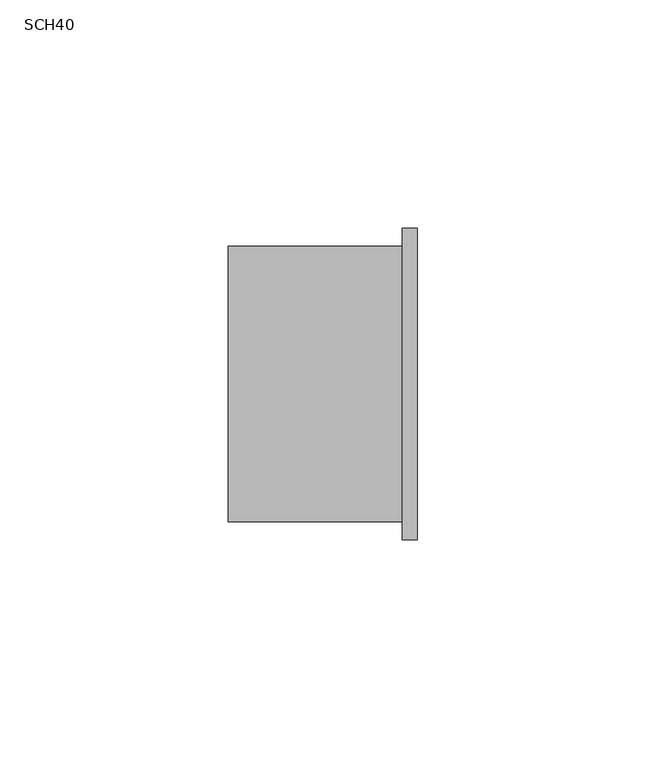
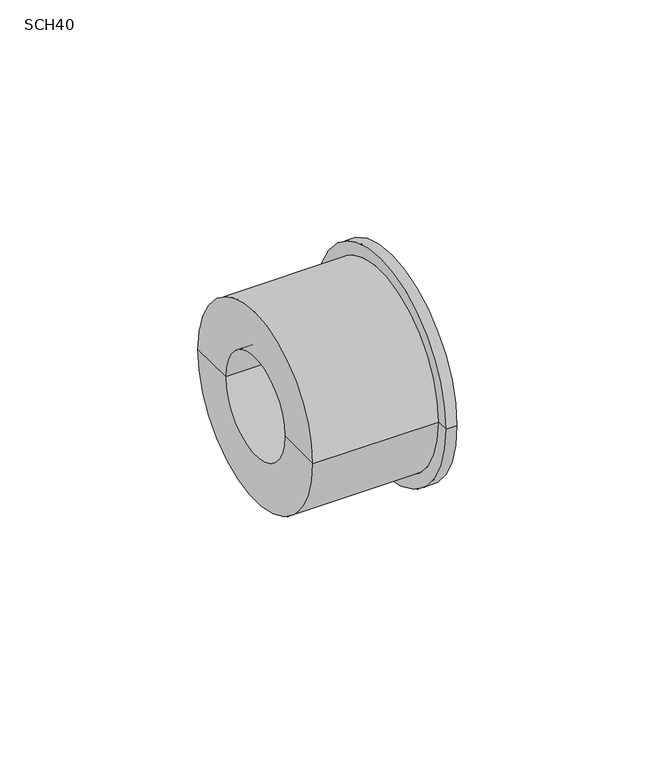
"""IFC4 building model written with IfcOpenShell, lengths in millimetres: pipe fitting geometry, PavcoWavin_UnionesDeTuberia_PVCPresionZNoUsarBuje : SCH40."""

import ifcopenshell
import ifcopenshell.guid

model = None  # the IFC model being written
_history = None  # IfcOwnerHistory: only IFC2X3 demands one
_inside = {}  # id of a spatial element -> (the spatial element, [elements in it])
_under = {}  # id of a project, library or spatial element -> (it, [spatial elements below it])
_declared = {}  # id of a project -> (the project, [libraries it declares])
_typed = {}  # id of a type object -> (the type object, [elements of that type])
_made_of = {}  # id of a material, layer set ... -> (it, [elements and type objects made of it])


def new_model(schema):
    """Start an empty IFC model of exactly this schema.

    Asked for "IFC4X3", IfcOpenShell would pick the latest addendum, in which some entities
    have other attributes; the version numbers below select the first issue.
    IFC2X3 requires an IfcOwnerHistory on every rooted entity: one is made here for all.
    """
    global model, _history
    if schema == "IFC4X3":
        model = ifcopenshell.file(schema_version=(4, 3, 0, 0))
    else:
        model = ifcopenshell.file(schema=schema)
    _inside.clear()
    _under.clear()
    _declared.clear()
    _typed.clear()
    _made_of.clear()
    _history = None
    if model.schema == "IFC2X3":
        org = make("IfcOrganization", Name="unknown")
        user = make(
            "IfcPersonAndOrganization",
            ThePerson=make("IfcPerson", FamilyName="unknown"),
            TheOrganization=org,
        )
        app = make(
            "IfcApplication",
            ApplicationDeveloper=org,
            Version="unknown",
            ApplicationFullName="unknown",
            ApplicationIdentifier="unknown",
        )
        _history = make(
            "IfcOwnerHistory",
            OwningUser=user,
            OwningApplication=app,
            ChangeAction="ADDED",
            CreationDate=0,
        )
    return model


def make(cls, **values):
    """One entity of the class cls with the attributes given. An attribute that is None is left unset."""
    return model.create_entity(
        cls, **{name: value for name, value in values.items() if value is not None}
    )


def rooted(cls, **values):
    """An entity with a GlobalId (a new one), such as an element, a storey or a relation."""
    return make(cls, GlobalId=ifcopenshell.guid.new(), OwnerHistory=_history, **values)


def si_unit(unit_type, name, prefix=None):
    """IfcSIUnit, for example si_unit("LENGTHUNIT", "METRE", prefix="MILLI")."""
    return make("IfcSIUnit", UnitType=unit_type, Prefix=prefix, Name=name)


def assignment(units):
    """IfcUnitAssignment: the units of a project."""
    return None if units is None else make("IfcUnitAssignment", Units=units)


def point(xyz):
    """IfcCartesianPoint."""
    return None if xyz is None else make("IfcCartesianPoint", Coordinates=xyz)


def direction(xyz):
    """IfcDirection."""
    return None if xyz is None else make("IfcDirection", DirectionRatios=xyz)


def frame(location, z_axis=None, x_axis=None):
    """IfcAxis2Placement3D, a coordinate frame: its origin and axes. An axis left out is left unset."""
    return make(
        "IfcAxis2Placement3D",
        Location=point(location),
        Axis=direction(z_axis),
        RefDirection=direction(x_axis),
    )


def origin():
    """The frame at (0, 0, 0) with its axes left unset."""
    return frame((0.0, 0.0, 0.0))


def place(relative_to, where):
    """IfcLocalPlacement: puts the frame where relative to a parent placement (None: the world)."""
    return make(
        "IfcLocalPlacement", PlacementRelTo=relative_to, RelativePlacement=where
    )


def context(
    kind, dimensions, precision=None, world=None, true_north=None, identifier=None
):
    """IfcGeometricRepresentationContext, for example the 3D "Model" context."""
    return make(
        "IfcGeometricRepresentationContext",
        ContextIdentifier=identifier,
        ContextType=kind,
        CoordinateSpaceDimension=dimensions,
        Precision=precision,
        WorldCoordinateSystem=world,
        TrueNorth=true_north,
    )


def project(units=None, contexts=None):
    """IfcProject with its units and contexts."""
    return rooted(
        "IfcProject",
        Name="project",
        RepresentationContexts=contexts,
        UnitsInContext=assignment(units),
    )


def spatial(cls, under=None, at=None, **own):
    """A site, building, storey or space (cls), placed at a placement, below another one or the project."""
    s = rooted(cls, ObjectPlacement=at, **own)
    if under is not None:
        _under.setdefault(under.id(), (under, []))[1].append(s)
    return s


def polyline(points):
    """IfcPolyline through the points."""
    return make("IfcPolyline", Points=[point(p) for p in points])


def circle_curve(where, radius):
    """IfcCircle in the frame where."""
    return make("IfcCircle", Position=where, Radius=radius)


def shape(context_of_items, identifier, shape_type, items):
    """IfcShapeRepresentation: the items that make up one representation, for example the "Body"."""
    return make(
        "IfcShapeRepresentation",
        ContextOfItems=context_of_items,
        RepresentationIdentifier=identifier,
        RepresentationType=shape_type,
        Items=items,
    )


def source(mapping_origin, context_of_items, identifier, shape_type, items):
    """IfcRepresentationMap: a shape defined once, which mapped items show again and again."""
    return make(
        "IfcRepresentationMap",
        MappingOrigin=mapping_origin,
        MappedRepresentation=shape(context_of_items, identifier, shape_type, items),
    )


def transform(
    local_origin,
    x_axis=None,
    y_axis=None,
    z_axis=None,
    scale=None,
    scale2=None,
    scale3=None,
    uniform=True,
):
    """IfcCartesianTransformationOperator3D, or its non-uniform kind. x_axis, y_axis, z_axis: its Axis1, 2, 3."""
    if uniform:
        return make(
            "IfcCartesianTransformationOperator3D",
            Axis1=direction(x_axis),
            Axis2=direction(y_axis),
            LocalOrigin=point(local_origin),
            Scale=scale,
            Axis3=direction(z_axis),
        )
    return make(
        "IfcCartesianTransformationOperator3DnonUniform",
        Axis1=direction(x_axis),
        Axis2=direction(y_axis),
        LocalOrigin=point(local_origin),
        Scale=scale,
        Axis3=direction(z_axis),
        Scale2=scale2,
        Scale3=scale3,
    )


def mapped(mapping_source, mapping_target):
    """IfcMappedItem: shows the shape of a source again, moved by a transform."""
    return make(
        "IfcMappedItem", MappingSource=mapping_source, MappingTarget=mapping_target
    )


def made_of(thing, what):
    """Note that an element or type object is made of a material, layer set ...; save() writes the relation."""
    if what is not None:
        _made_of.setdefault(what.id(), (what, []))[1].append(thing)
    return thing


def element(
    cls,
    number,
    at=None,
    inside=None,
    cuts=None,
    type_object=None,
    material=None,
    context=None,
    identifier="Body",
    shape_type=None,
    held_by="IfcProductDefinitionShape",
    body=None,
    shapes=None,
    **own,
):
    """One element of the class cls, such as IfcWall. Its Tag is "e" and its number.

    at: its placement. inside: the storey or other place that contains it. cuts: it is an
    opening in that element (IfcRelVoidsElement). A single representation is given by context,
    identifier, shape_type and body (its items); several are given by shapes. held_by: the class
    of the entity that holds the representations. save() writes the other relations.
    """
    e = rooted(cls, Tag="e%d" % number, ObjectPlacement=at, **own)
    if body is not None:
        shapes = [shape(context, identifier, shape_type, body)]
    if shapes is not None:
        e.Representation = make(held_by, Representations=shapes)
    if inside is not None:
        _inside.setdefault(inside.id(), (inside, []))[1].append(e)
    if cuts is not None:
        rooted(
            "IfcRelVoidsElement", RelatingBuildingElement=cuts, RelatedOpeningElement=e
        )
    if type_object is not None:
        _typed.setdefault(type_object.id(), (type_object, []))[1].append(e)
    return made_of(e, material)


def aggregate(whole, parts):
    """IfcRelAggregates: a whole, such as a stair, and the parts it consists of."""
    return rooted("IfcRelAggregates", RelatingObject=whole, RelatedObjects=parts)


def save(model, path):
    """Write the relations noted so far, then the file.

    IfcRelAggregates (storeys below a building ...), IfcRelContainedInSpatialStructure (elements
    in a storey), IfcRelDefinesByType, IfcRelAssociatesMaterial and IfcRelDeclares: one each for
    every whole, place, type object, material and project.
    """
    for whole, parts in _under.values():
        aggregate(whole, parts)
    for where, things in _inside.values():
        rooted(
            "IfcRelContainedInSpatialStructure",
            RelatedElements=things,
            RelatingStructure=where,
        )
    for kind, things in _typed.values():
        rooted("IfcRelDefinesByType", RelatedObjects=things, RelatingType=kind)
    for what, things in _made_of.values():
        rooted("IfcRelAssociatesMaterial", RelatedObjects=things, RelatingMaterial=what)
    for by, libraries in _declared.values():
        rooted("IfcRelDeclares", RelatingContext=by, RelatedDefinitions=libraries)
    model.write(path)


def plane_surface(at):
    """IfcPlane: the flat surface through the origin of the frame at, square to its z axis."""
    return make("IfcPlane", Position=at)


def cylinder_surface(at, radius):
    """IfcCylindricalSurface: all points at the distance radius from the z axis of the frame at."""
    return make("IfcCylindricalSurface", Position=at, Radius=radius)


def revolved_surface(curve, axis_point, axis_direction):
    """IfcSurfaceOfRevolution: the curve turned about the line through axis_point along axis_direction."""
    return make(
        "IfcSurfaceOfRevolution",
        SweptCurve=make("IfcArbitraryOpenProfileDef", ProfileType="CURVE", Curve=curve),
        AxisPosition=make("IfcAxis1Placement", Location=point(axis_point), Axis=direction(axis_direction)),
    )


def advanced_brep(points, edges, surfaces, faces):
    """IfcAdvancedBrep: a solid bounded by faces that lie on surfaces and meet in shared edges.

    An edge is (start, end): straight between two places in points (the first is 0);
    or (start, end, curve); or (start, end, curve, False) where it runs against its curve.
    A face is (place in surfaces, loops), or (place, loops, False) where it looks against
    its surface's normal. A loop lists edges by number (the first is 1), with a minus sign
    where the edge is run from its end to its start. The first loop is the outer one.
    """
    corners = [point(p) for p in points]
    vertices = [make("IfcVertexPoint", VertexGeometry=c) for c in corners]
    made = []
    for start, end, *more in edges:
        made.append(
            make(
                "IfcEdgeCurve",
                EdgeStart=vertices[start],
                EdgeEnd=vertices[end],
                EdgeGeometry=more[0] if more else make("IfcPolyline", Points=[corners[start], corners[end]]),
                SameSense=more[1] if len(more) > 1 else True,
            )
        )
    hull = []
    for where, loops, *sense in faces:
        bounds = []
        for j, loop in enumerate(loops):
            ring = [make("IfcOrientedEdge", EdgeElement=made[abs(k) - 1], Orientation=k > 0) for k in loop]
            bounds.append(
                make(
                    "IfcFaceOuterBound" if j == 0 else "IfcFaceBound",
                    Bound=make("IfcEdgeLoop", EdgeList=ring),
                    Orientation=True,
                )
            )
        hull.append(make("IfcAdvancedFace", Bounds=bounds, FaceSurface=surfaces[where], SameSense=sense[0] if sense else True))
    return make("IfcAdvancedBrep", Outer=make("IfcClosedShell", CfsFaces=hull))


def sch40_bc6c9668(model_context):
    return source(origin(), model_context, "Body", "AdvancedBrep", [
        advanced_brep(
        [(16.0, -16.67, 0.0), (16.0, 16.67, 0.0), (16.0, 15.67, 0.0), (16.0, -15.67, 0.0), (41.4, -16.67, 0.0), (41.4, 16.67, 0.0), (41.4, -34.075, 0.0), (41.4, 34.075, 0.0), (38.1, -34.075, 0.0), (38.1, 34.075, 0.0), (38.1, -30.165, 0.0), (38.1, 30.165, 0.0), (0.0, -30.165, 0.0), (0.0, 30.165, 0.0), (0.0, -15.67, 0.0), (0.0, 15.67, 0.0)],
        [
            (0, 1, circle_curve(frame((16.0, 0.0, 0.0), z_axis=(1.0, 0.0, 0.0), x_axis=(0.0, 1.0, 0.0)), 16.67)),
            (1, 2),
            (2, 3, circle_curve(frame((16.0, 0.0, 0.0), z_axis=(-1.0, 0.0, 0.0), x_axis=(0.0, 1.0, 0.0)), 15.67)),
            (3, 0),
            (1, 0, circle_curve(frame((16.0, 0.0, 0.0), z_axis=(1.0, 0.0, 0.0), x_axis=(0.0, 1.0, 0.0)), 16.67)),
            (3, 2, circle_curve(frame((16.0, 0.0, 0.0), z_axis=(-1.0, 0.0, 0.0), x_axis=(0.0, 1.0, 0.0)), 15.67)),
            (4, 5, circle_curve(frame((41.4, 0.0, 0.0), z_axis=(1.0, 0.0, 0.0), x_axis=(0.0, 1.0, 0.0)), 16.67)),
            (5, 1),
            (0, 4),
            (5, 4, circle_curve(frame((41.4, 0.0, 0.0), z_axis=(1.0, 0.0, 0.0), x_axis=(0.0, 1.0, 0.0)), 16.67)),
            (6, 7, circle_curve(frame((41.4, 0.0, 0.0), z_axis=(1.0, 0.0, 0.0), x_axis=(0.0, 1.0, 0.0)), 34.075)),
            (7, 5),
            (4, 6),
            (7, 6, circle_curve(frame((41.4, 0.0, 0.0), z_axis=(1.0, 0.0, 0.0), x_axis=(0.0, 1.0, 0.0)), 34.075)),
            (8, 9, circle_curve(frame((38.1, 0.0, 0.0), z_axis=(1.0, 0.0, 0.0), x_axis=(0.0, 1.0, 0.0)), 34.075)),
            (9, 7),
            (6, 8),
            (9, 8, circle_curve(frame((38.1, 0.0, 0.0), z_axis=(1.0, 0.0, 0.0), x_axis=(0.0, 1.0, 0.0)), 34.075)),
            (10, 11, circle_curve(frame((38.1, 0.0, 0.0), z_axis=(1.0, 0.0, 0.0), x_axis=(0.0, 1.0, 0.0)), 30.165)),
            (11, 9),
            (8, 10),
            (11, 10, circle_curve(frame((38.1, 0.0, 0.0), z_axis=(1.0, 0.0, 0.0), x_axis=(0.0, 1.0, 0.0)), 30.165)),
            (12, 13, circle_curve(frame((0.0, 0.0, 0.0), z_axis=(1.0, 0.0, 0.0), x_axis=(0.0, 1.0, 0.0)), 30.165)),
            (13, 11),
            (10, 12),
            (13, 12, circle_curve(frame((0.0, 0.0, 0.0), z_axis=(1.0, 0.0, 0.0), x_axis=(0.0, 1.0, 0.0)), 30.165)),
            (14, 15, circle_curve(frame((0.0, 0.0, 0.0), z_axis=(1.0, 0.0, 0.0), x_axis=(0.0, 1.0, 0.0)), 15.67)),
            (15, 13),
            (12, 14),
            (15, 14, circle_curve(frame((0.0, 0.0, 0.0), z_axis=(1.0, 0.0, 0.0), x_axis=(0.0, 1.0, 0.0)), 15.67)),
            (2, 15),
            (14, 3),
        ],
        [
            plane_surface(frame((16.0, 0.0, 0.0), z_axis=(1.0, 0.0, 0.0), x_axis=(0.0, 1.0, 0.0))),
            revolved_surface(polyline([(16.0, 16.67, 0.0), (41.40000000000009, 16.67, 0.0)]), (1951.4, 0.0, 0.0), (-1.0, 0.0, 0.0)),
            plane_surface(frame((41.4, 0.0, 0.0), z_axis=(1.0, 0.0, 0.0), x_axis=(0.0, 1.0, 0.0))),
            cylinder_surface(frame((1951.4, 0.0, 0.0), z_axis=(-1.0, 0.0, 0.0), x_axis=(0.0, 1.0, 0.0)), 34.075),
            plane_surface(frame((38.1, 0.0, 0.0), z_axis=(-1.0, 0.0, 0.0), x_axis=(0.0, 1.0, 0.0))),
            cylinder_surface(frame((1951.4, 0.0, 0.0), z_axis=(-1.0, 0.0, 0.0), x_axis=(0.0, 1.0, 0.0)), 30.165),
            plane_surface(frame((0.0, 0.0, 0.0), z_axis=(-1.0, 0.0, 0.0), x_axis=(0.0, 1.0, 0.0))),
            revolved_surface(polyline([(0.0, 15.67, 0.0), (16.0, 15.67, 0.0)]), (1951.4, 0.0, 0.0), (-1.0, 0.0, 0.0)),
        ],
        [
            (0, [[1, 2, 3, 4]]),
            (0, [[5, -4, 6, -2]]),
            (1, [[7, 8, -1, 9]]),
            (1, [[10, -9, -5, -8]]),
            (2, [[11, 12, -7, 13]]),
            (2, [[14, -13, -10, -12]]),
            (3, [[15, 16, -11, 17]]),
            (3, [[18, -17, -14, -16]]),
            (4, [[19, 20, -15, 21]]),
            (4, [[22, -21, -18, -20]]),
            (5, [[23, 24, -19, 25]]),
            (5, [[26, -25, -22, -24]]),
            (6, [[27, 28, -23, 29]]),
            (6, [[30, -29, -26, -28]]),
            (7, [[-3, 31, -27, 32]]),
            (7, [[-6, -32, -30, -31]]),
        ],
    ),
    ])


if __name__ == "__main__":
    model = new_model("IFC4")
    model_context = context("Model", 3, world=origin())
    ifc_project = project(units=[si_unit("LENGTHUNIT", "METRE", prefix="MILLI")], contexts=[model_context])
    site = spatial("IfcSite", under=ifc_project)
    building = spatial("IfcBuilding", under=site)
    placement = place(None, origin())
    sch40_shape = sch40_bc6c9668(model_context)
    element("IfcPipeFitting", 1, ObjectType="PavcoWavin_UnionesDeTuberia_PVCPresionZNoUsarBuje : SCH40", at=placement, inside=building, context=model_context, shape_type="MappedRepresentation", body=[
        mapped(sch40_shape, transform((0.0, 0.0, 0.0), x_axis=(1.0, 0.0, 0.0), y_axis=(0.0, 1.0, 0.0), z_axis=(0.0, 0.0, 1.0))),
    ])
    save(model, "model.ifc")
